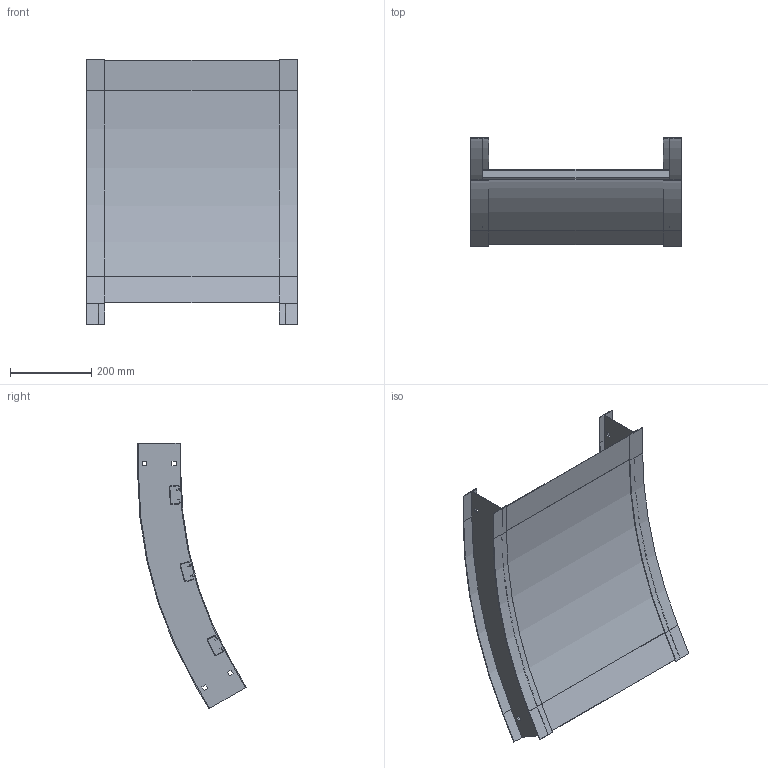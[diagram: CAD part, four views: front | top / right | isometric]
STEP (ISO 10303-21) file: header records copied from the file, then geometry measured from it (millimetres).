
FILE_DESCRIPTION((''),'2;1');
FILE_NAME('AHF418SVO3036_ASM','2010-02-02T',('erouzier'),(''),'PRO/ENGINEER BY PARAMETRIC TECHNOLOGY CORPORATION, 2008510','PRO/ENGINEER BY PARAMETRIC TECHNOLOGY CORPORATION, 2008510','');
FILE_SCHEMA(('CONFIG_CONTROL_DESIGN'));
Length unit declared in the file: inch
Products named in the file (4): CDS001658_4_30_36; CDS002159L18; ED04591_30_36_18; AHF418SVO3036_ASM
Assembly tree (6 placements, depth 2):
  AHF418SVO3036_ASM
    CDS001658_4_30_36  x2
    CDS002159L18  x3
    ED04591_30_36_18
Bounding box: 517.4 x 266.65 x 652.41 mm (x, y, z)
Volume: 972748.5 mm3; surface area: 1404643.2 mm2
Topology: 6 solids, 6 shells, 188 faces, 520 edges, 344 vertices
Faces by surface type: plane 141, cylinder 47
Entity records: 2826 total; most frequent: CARTESIAN_POINT 480, ORIENTED_EDGE 464, DIRECTION 462, EDGE_CURVE 232, VECTOR 194, LINE 194, VERTEX_POINT 152, AXIS2_PLACEMENT_3D 134
